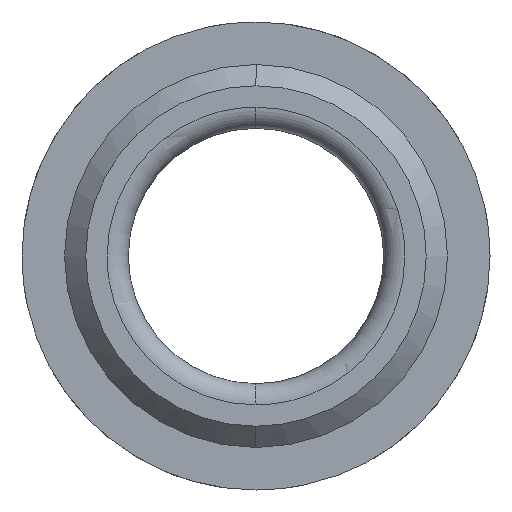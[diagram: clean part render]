
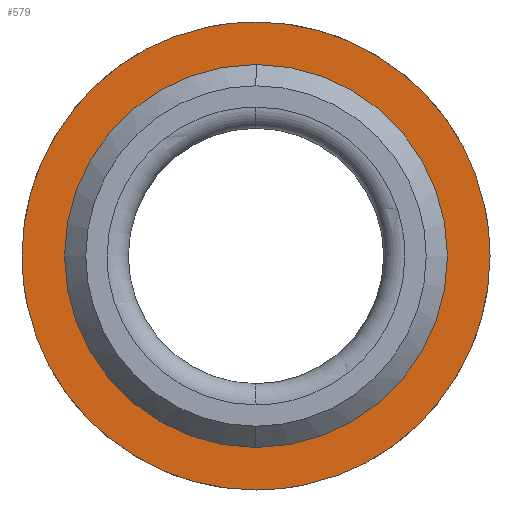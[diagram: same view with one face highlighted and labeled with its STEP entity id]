
A CAD part, left-side view. The second image highlights one B-rep face of the part: STEP entity #579.
In plain terms, the highlighted planar face has unit normal (-1, 0, 0).
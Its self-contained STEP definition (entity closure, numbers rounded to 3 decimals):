
#363=CARTESIAN_POINT('Vertex',(-5.,0.,9.)) ;
#366=CARTESIAN_POINT('Axis2P3D Location',(-5.,0.,0.)) ;
#370=CARTESIAN_POINT('Vertex',(-5.,9.,0.)) ;
#373=CARTESIAN_POINT('Axis2P3D Location',(-5.,0.,0.)) ;
#377=CARTESIAN_POINT('Vertex',(-5.,0.,-9.)) ;
#399=CARTESIAN_POINT('Axis2P3D Location',(-5.,0.,0.)) ;
#403=CARTESIAN_POINT('Vertex',(-5.,-9.,0.)) ;
#406=CARTESIAN_POINT('Axis2P3D Location',(-5.,0.,0.)) ;
#486=CARTESIAN_POINT('Axis2P3D Location',(-5.,11.,0.)) ;
#492=CARTESIAN_POINT('Control Point',(-5.,0.,-11.)) ;
#493=CARTESIAN_POINT('Control Point',(-5.,1.094,-11.)) ;
#494=CARTESIAN_POINT('Control Point',(-5.,2.187,-10.864)) ;
#495=CARTESIAN_POINT('Control Point',(-5.,3.259,-10.592)) ;
#496=CARTESIAN_POINT('Control Point',(-5.,5.352,-9.772)) ;
#497=CARTESIAN_POINT('Control Point',(-5.,7.175,-8.454)) ;
#498=CARTESIAN_POINT('Control Point',(-5.,8.013,-7.666)) ;
#499=CARTESIAN_POINT('Control Point',(-5.,9.464,-5.89)) ;
#500=CARTESIAN_POINT('Control Point',(-5.,10.416,-3.803)) ;
#501=CARTESIAN_POINT('Control Point',(-5.,10.754,-2.704)) ;
#502=CARTESIAN_POINT('Control Point',(-5.,10.961,-1.486)) ;
#503=CARTESIAN_POINT('Control Point',(-5.,10.997,-0.262)) ;
#504=CARTESIAN_POINT('Control Point',(-5.,10.999,-0.175)) ;
#505=CARTESIAN_POINT('Control Point',(-5.,11.,-0.087)) ;
#506=CARTESIAN_POINT('Control Point',(-5.,11.,0.)) ;
#507=CARTESIAN_POINT('Vertex',(-5.,0.,-11.)) ;
#509=CARTESIAN_POINT('Vertex',(-5.,11.,0.)) ;
#513=CARTESIAN_POINT('Control Point',(-5.,-11.,0.)) ;
#514=CARTESIAN_POINT('Control Point',(-5.,-11.,-1.137)) ;
#515=CARTESIAN_POINT('Control Point',(-5.,-10.853,-2.275)) ;
#516=CARTESIAN_POINT('Control Point',(-5.,-10.559,-3.387)) ;
#517=CARTESIAN_POINT('Control Point',(-5.,-9.69,-5.51)) ;
#518=CARTESIAN_POINT('Control Point',(-5.,-8.31,-7.342)) ;
#519=CARTESIAN_POINT('Control Point',(-5.,-7.505,-8.163)) ;
#520=CARTESIAN_POINT('Control Point',(-5.,-5.701,-9.579)) ;
#521=CARTESIAN_POINT('Control Point',(-5.,-3.596,-10.49)) ;
#522=CARTESIAN_POINT('Control Point',(-5.,-2.49,-10.806)) ;
#523=CARTESIAN_POINT('Control Point',(-5.,-1.312,-10.982)) ;
#524=CARTESIAN_POINT('Control Point',(-5.,-0.131,-10.999)) ;
#525=CARTESIAN_POINT('Control Point',(-5.,-0.087,-11.)) ;
#526=CARTESIAN_POINT('Control Point',(-5.,-0.044,-11.)) ;
#527=CARTESIAN_POINT('Control Point',(-5.,0.,-11.)) ;
#528=CARTESIAN_POINT('Vertex',(-5.,-11.,0.)) ;
#532=CARTESIAN_POINT('Control Point',(-5.,0.,11.)) ;
#533=CARTESIAN_POINT('Control Point',(-5.,-1.094,11.)) ;
#534=CARTESIAN_POINT('Control Point',(-5.,-2.187,10.864)) ;
#535=CARTESIAN_POINT('Control Point',(-5.,-3.259,10.592)) ;
#536=CARTESIAN_POINT('Control Point',(-5.,-5.352,9.772)) ;
#537=CARTESIAN_POINT('Control Point',(-5.,-7.175,8.454)) ;
#538=CARTESIAN_POINT('Control Point',(-5.,-8.013,7.666)) ;
#539=CARTESIAN_POINT('Control Point',(-5.,-9.464,5.89)) ;
#540=CARTESIAN_POINT('Control Point',(-5.,-10.416,3.803)) ;
#541=CARTESIAN_POINT('Control Point',(-5.,-10.754,2.704)) ;
#542=CARTESIAN_POINT('Control Point',(-5.,-10.961,1.486)) ;
#543=CARTESIAN_POINT('Control Point',(-5.,-10.997,0.262)) ;
#544=CARTESIAN_POINT('Control Point',(-5.,-10.999,0.175)) ;
#545=CARTESIAN_POINT('Control Point',(-5.,-11.,0.087)) ;
#546=CARTESIAN_POINT('Control Point',(-5.,-11.,0.)) ;
#547=CARTESIAN_POINT('Vertex',(-5.,0.,11.)) ;
#551=CARTESIAN_POINT('Control Point',(-5.,11.,0.)) ;
#552=CARTESIAN_POINT('Control Point',(-5.,11.,1.137)) ;
#553=CARTESIAN_POINT('Control Point',(-5.,10.853,2.275)) ;
#554=CARTESIAN_POINT('Control Point',(-5.,10.559,3.387)) ;
#555=CARTESIAN_POINT('Control Point',(-5.,9.69,5.51)) ;
#556=CARTESIAN_POINT('Control Point',(-5.,8.31,7.342)) ;
#557=CARTESIAN_POINT('Control Point',(-5.,7.505,8.163)) ;
#558=CARTESIAN_POINT('Control Point',(-5.,5.701,9.579)) ;
#559=CARTESIAN_POINT('Control Point',(-5.,3.596,10.49)) ;
#560=CARTESIAN_POINT('Control Point',(-5.,2.49,10.806)) ;
#561=CARTESIAN_POINT('Control Point',(-5.,1.312,10.982)) ;
#562=CARTESIAN_POINT('Control Point',(-5.,0.131,10.999)) ;
#563=CARTESIAN_POINT('Control Point',(-5.,0.087,11.)) ;
#564=CARTESIAN_POINT('Control Point',(-5.,0.044,11.)) ;
#565=CARTESIAN_POINT('Control Point',(-5.,0.,11.)) ;
#367=DIRECTION('Axis2P3D Direction',(-1.,-0.,-0.)) ;
#374=DIRECTION('Axis2P3D Direction',(-1.,-0.,-0.)) ;
#400=DIRECTION('Axis2P3D Direction',(-1.,-0.,-0.)) ;
#407=DIRECTION('Axis2P3D Direction',(-1.,-0.,-0.)) ;
#487=DIRECTION('Axis2P3D Direction',(-1.,0.,0.)) ;
#488=DIRECTION('Axis2P3D XDirection',(0.,0.,1.)) ;
#368=AXIS2_PLACEMENT_3D('Circle Axis2P3D',#366,#367,$) ;
#375=AXIS2_PLACEMENT_3D('Circle Axis2P3D',#373,#374,$) ;
#401=AXIS2_PLACEMENT_3D('Circle Axis2P3D',#399,#400,$) ;
#408=AXIS2_PLACEMENT_3D('Circle Axis2P3D',#406,#407,$) ;
#489=AXIS2_PLACEMENT_3D('Plane Axis2P3D',#486,#487,#488) ;
#568=ORIENTED_EDGE('',*,*,#511,.F.) ;
#569=ORIENTED_EDGE('',*,*,#530,.F.) ;
#570=ORIENTED_EDGE('',*,*,#549,.F.) ;
#571=ORIENTED_EDGE('',*,*,#566,.F.) ;
#574=ORIENTED_EDGE('',*,*,#372,.T.) ;
#575=ORIENTED_EDGE('',*,*,#410,.T.) ;
#576=ORIENTED_EDGE('',*,*,#405,.T.) ;
#577=ORIENTED_EDGE('',*,*,#379,.T.) ;
#578=FACE_BOUND('',#573,.T.) ;
#579=ADVANCED_FACE('355-12X40',(#572,#578),#490,.T.) ;
#491=B_SPLINE_CURVE_WITH_KNOTS('',5,(#492,#493,#494,#495,#496,#497,#498,#499,#500,#501,#502,#503,#504,#505,#506),.UNSPECIFIED.,.F.,.U.,(6,3,3,3,6),(24.436,32.169,40.211,48.254,48.871),.UNSPECIFIED.) ;
#512=B_SPLINE_CURVE_WITH_KNOTS('',5,(#513,#514,#515,#516,#517,#518,#519,#520,#521,#522,#523,#524,#525,#526,#527),.UNSPECIFIED.,.F.,.U.,(6,3,3,3,6),(0.,8.042,16.085,24.127,24.436),.UNSPECIFIED.) ;
#531=B_SPLINE_CURVE_WITH_KNOTS('',5,(#532,#533,#534,#535,#536,#537,#538,#539,#540,#541,#542,#543,#544,#545,#546),.UNSPECIFIED.,.F.,.U.,(6,3,3,3,6),(24.436,32.169,40.211,48.254,48.871),.UNSPECIFIED.) ;
#550=B_SPLINE_CURVE_WITH_KNOTS('',5,(#551,#552,#553,#554,#555,#556,#557,#558,#559,#560,#561,#562,#563,#564,#565),.UNSPECIFIED.,.F.,.U.,(6,3,3,3,6),(0.,8.042,16.085,24.127,24.436),.UNSPECIFIED.) ;
#369=CIRCLE('generated circle',#368,9.) ;
#376=CIRCLE('generated circle',#375,9.) ;
#402=CIRCLE('generated circle',#401,9.) ;
#409=CIRCLE('generated circle',#408,9.) ;
#372=EDGE_CURVE('',#371,#364,#369,.F.) ;
#379=EDGE_CURVE('',#378,#371,#376,.F.) ;
#405=EDGE_CURVE('',#404,#378,#402,.F.) ;
#410=EDGE_CURVE('',#364,#404,#409,.F.) ;
#511=EDGE_CURVE('',#508,#510,#491,.T.) ;
#530=EDGE_CURVE('',#529,#508,#512,.T.) ;
#549=EDGE_CURVE('',#548,#529,#531,.T.) ;
#566=EDGE_CURVE('',#510,#548,#550,.T.) ;
#567=EDGE_LOOP('',(#568,#569,#570,#571)) ;
#573=EDGE_LOOP('',(#574,#575,#576,#577)) ;
#572=FACE_OUTER_BOUND('',#567,.T.) ;
#490=PLANE('Plane',#489) ;
#364=VERTEX_POINT('',#363) ;
#371=VERTEX_POINT('',#370) ;
#378=VERTEX_POINT('',#377) ;
#404=VERTEX_POINT('',#403) ;
#508=VERTEX_POINT('',#507) ;
#510=VERTEX_POINT('',#509) ;
#529=VERTEX_POINT('',#528) ;
#548=VERTEX_POINT('',#547) ;
